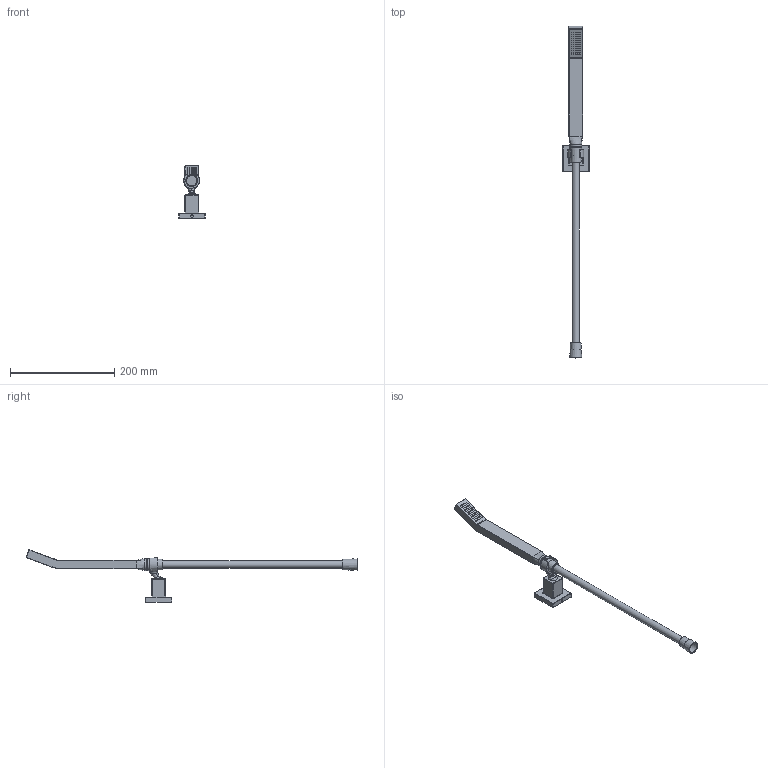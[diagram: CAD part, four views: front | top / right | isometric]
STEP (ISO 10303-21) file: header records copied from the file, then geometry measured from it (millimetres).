
FILE_DESCRIPTION(/* description */ (''),/* implementation_level */ '2;1');
FILE_NAME(/* name */ 'D:\Omnires\Export_Omnires\rys_step\5908223780806_stp.stp',/* time_stamp */ '2020-07-27T14:03:20+02:00',/* author */ (''),/* organization */ (''),/* preprocessor_version */ 'ST-DEVELOPER v18.1',/* originating_system */ 'Autodesk Inventor 2020',/* authorisation */ '');
FILE_SCHEMA (('AUTOMOTIVE_DESIGN { 1 0 10303 214 3 1 1 }'));
Length unit declared in the file: millimetre
Products named in the file (1): 5908223780806_dwg
Bounding box: 50.31 x 637.57 x 100.5 mm (x, y, z)
Surface area: 59944.8 mm2 (no closed solid volume)
Topology: 0 solids, 4 shells, 284 faces, 636 edges, 418 vertices
Faces by surface type: cylinder 111, plane 99, bspline 51, torus 10, cone 7, sphere 6
Full cylindrical faces by diameter (mm): 1 x60, 14 x2, 17.534 x3, 18 x1, 19.822 x2, 20 x2, 22.9 x1
Entity records: 17641 total; most frequent: CARTESIAN_POINT 10979, DIRECTION 1370, ORIENTED_EDGE 1248, EDGE_CURVE 624, AXIS2_PLACEMENT_3D 596, VERTEX_POINT 418, EDGE_LOOP 354, CIRCLE 345
